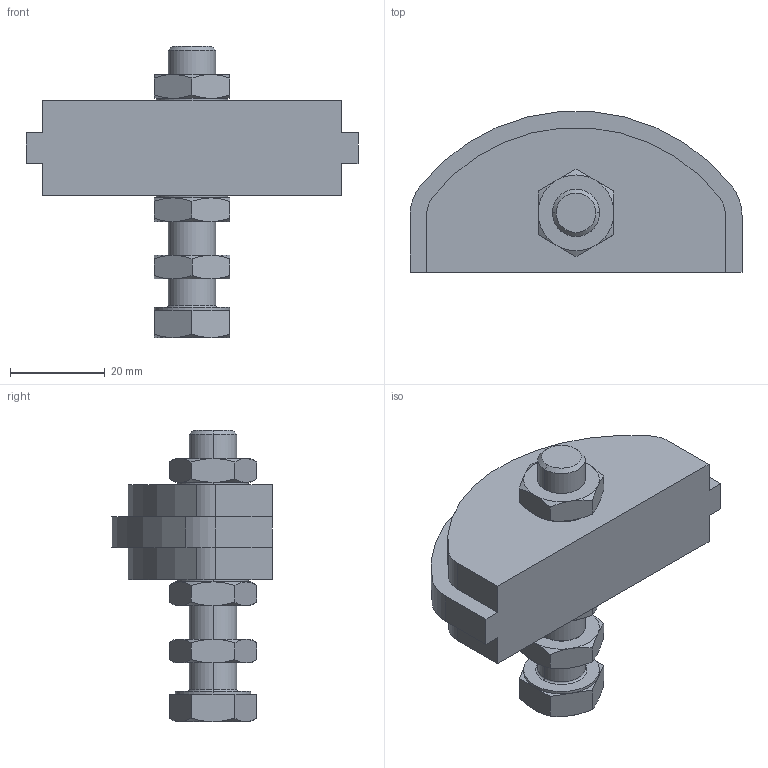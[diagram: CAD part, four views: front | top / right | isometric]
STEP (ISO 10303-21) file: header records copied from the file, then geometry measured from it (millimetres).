
FILE_DESCRIPTION (( 'STEP AP203' ), '1' );
FILE_NAME ('GE 1-2S M10 cod. 94091201.STEP', '2017-08-01T08:04:25', ( '' ), ( '' ), 'SwSTEP 2.0', 'SolidWorks 2016', '' );
FILE_SCHEMA (( 'CONFIG_CONTROL_DESIGN' ));
Length unit declared in the file: millimetre
Products named in the file (5): ISO 4017 - M10 x 55-C_ISO 4017 - M10 x 55-C; ISO - 4035 - M10 - N_ISO - 4035 - M10 - N; GE-P ISO 08B-1; GE 1-2S M10 cod. 94091201; DS 10-15-20
Assembly tree (6 placements, depth 2):
  GE 1-2S M10 cod. 94091201
    GE-P ISO 08B-1
    DS 10-15-20
    ISO 4017 - M10 x 55-C_ISO 4017 - M10 x 55-C
    ISO - 4035 - M10 - N_ISO - 4035 - M10 - N  x3
Bounding box: 70 x 33.86 x 61.4 mm (x, y, z)
Volume: 41297.7 mm3; surface area: 14419.9 mm2
Topology: 6 solids, 6 shells, 141 faces, 312 edges, 184 vertices
Faces by surface type: cone 56, plane 52, cylinder 31, torus 2
Entity records: 3089 total; most frequent: CARTESIAN_POINT 610, DIRECTION 420, ORIENTED_EDGE 384, EDGE_CURVE 192, AXIS2_PLACEMENT_3D 170, VERTEX_POINT 116, EDGE_LOOP 92, FACE_OUTER_BOUND 85
